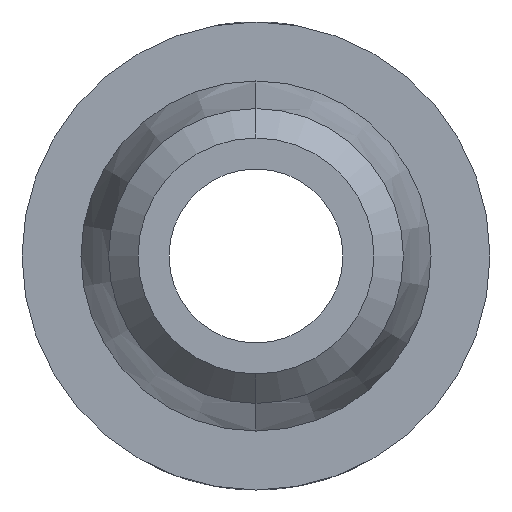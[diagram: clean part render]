
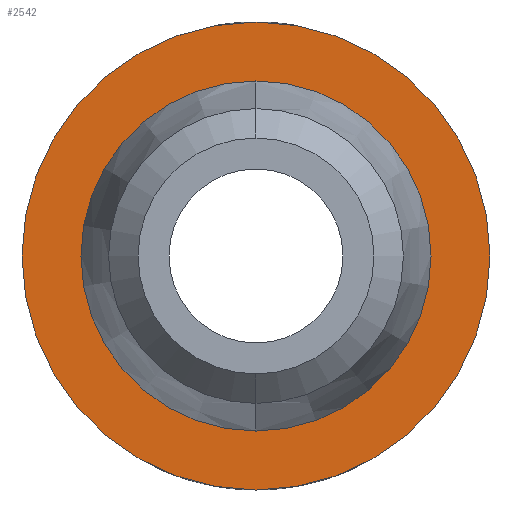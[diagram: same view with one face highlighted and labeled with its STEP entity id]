
A CAD part, left-side view. The second image highlights one B-rep face of the part: STEP entity #2542.
In plain terms, the highlighted planar face has unit normal (1, 0, 0).
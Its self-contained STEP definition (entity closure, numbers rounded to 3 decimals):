
#52=PLANE('',#2887);
#71=FACE_BOUND('',#314,.T.);
#137=CIRCLE('',#2888,3.175);
#138=CIRCLE('',#2889,2.375);
#215=FACE_OUTER_BOUND('',#313,.T.);
#313=EDGE_LOOP('',(#2079));
#314=EDGE_LOOP('',(#2080));
#1137=VERTEX_POINT('',#4933);
#1138=VERTEX_POINT('',#4935);
#1608=EDGE_CURVE('',#1137,#1137,#137,.T.);
#1609=EDGE_CURVE('',#1138,#1138,#138,.T.);
#2079=ORIENTED_EDGE('',*,*,#1608,.T.);
#2080=ORIENTED_EDGE('',*,*,#1609,.T.);
#2542=ADVANCED_FACE('',(#215,#71),#52,.T.);
#2887=AXIS2_PLACEMENT_3D('',#4932,#3154,#3155);
#2888=AXIS2_PLACEMENT_3D('',#4934,#3156,#3157);
#2889=AXIS2_PLACEMENT_3D('',#4936,#3158,#3159);
#3154=DIRECTION('center_axis',(1.,0.,0.));
#3155=DIRECTION('ref_axis',(0.,0.,-1.));
#3156=DIRECTION('center_axis',(1.,0.,0.));
#3157=DIRECTION('ref_axis',(0.,0.,-1.));
#3158=DIRECTION('center_axis',(-1.,0.,0.));
#3159=DIRECTION('ref_axis',(0.,0.,
-1.));
#4932=CARTESIAN_POINT('Origin',(-4.5,-3.213,0.));
#4933=CARTESIAN_POINT('',(-4.5,0.,3.175));
#4934=CARTESIAN_POINT('Origin',(-4.5,0.,0.));
#4935=CARTESIAN_POINT('',(-4.5,0.,2.375));
#4936=CARTESIAN_POINT('Origin',(-4.5,0.,0.));
